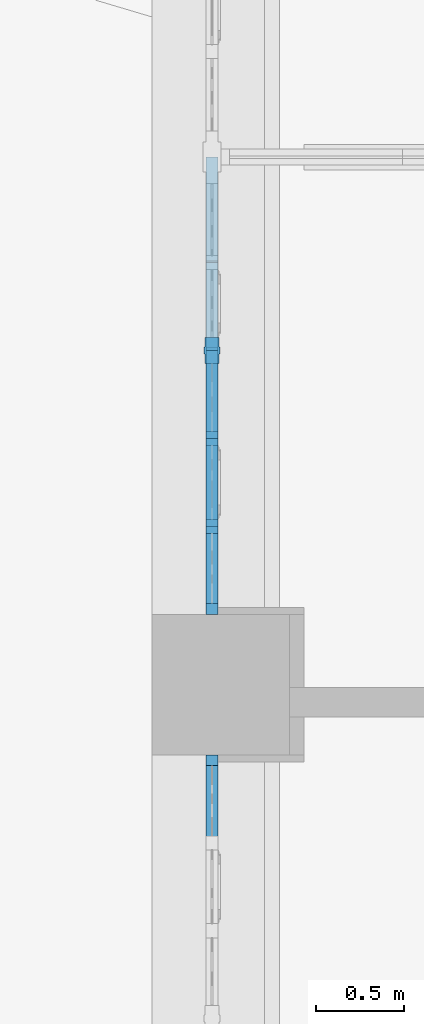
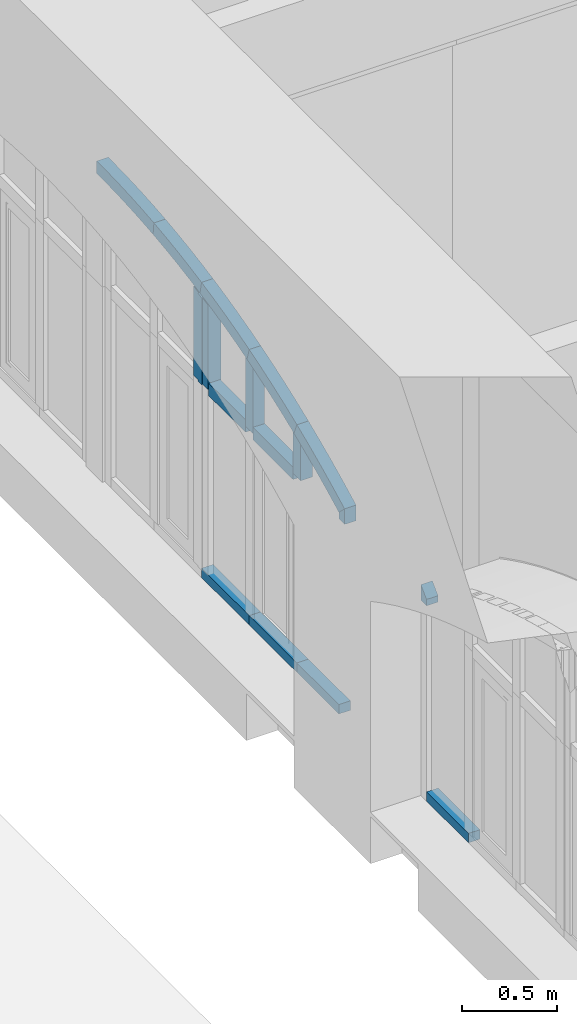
# One storey, part 43 of 88: 16 members, 2 elements without a shape of their own.
"""IFC2X3 building model written with IfcOpenShell, lengths in millimetres."""

from ifc_helpers import new_model, entity, si_unit, converted_unit, derived_unit, direction, frame, frame_2d, origin, place, context, subcontext, project, spatial, polyline, circle_curve, parameter, trimmed, segment, composite_curve, rectangle, outline, extrude, faceted_brep, source, transform, mapped, material, type_object, type_shapes, element, aggregate, save


model = new_model("IFC2X3")

# Units and contexts
model_context = context("Model", 3, precision=0.01, world=origin(), true_north=direction((6.123031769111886e-17, 1.0)))
body_context = subcontext(model_context, "Body", "Model", "MODEL_VIEW")
ifc_project = project(units=[si_unit("LENGTHUNIT", "METRE", prefix="MILLI"), si_unit("AREAUNIT", "SQUARE_METRE"), si_unit("VOLUMEUNIT", "CUBIC_METRE"), converted_unit("PLANEANGLEUNIT", "DEGREE", entity("IfcPlaneAngleMeasure", 0.017453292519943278), si_unit("PLANEANGLEUNIT", "RADIAN"), dimensions=[0, 0, 0, 0, 0, 0, 0]), si_unit("MASSUNIT", "GRAM", prefix="KILO"), derived_unit("MASSDENSITYUNIT", [(si_unit("MASSUNIT", "GRAM", prefix="KILO"), 1), (si_unit("LENGTHUNIT", "METRE"), -3)]), derived_unit("IONCONCENTRATIONUNIT", [(si_unit("MASSUNIT", "GRAM", prefix="KILO"), 1), (si_unit("LENGTHUNIT", "METRE"), -3)]), derived_unit("MOMENTOFINERTIAUNIT", [(si_unit("LENGTHUNIT", "METRE"), 4)]), si_unit("TIMEUNIT", "SECOND"), si_unit("FREQUENCYUNIT", "HERTZ"), si_unit("THERMODYNAMICTEMPERATUREUNIT", "DEGREE_CELSIUS"), derived_unit("THERMALTRANSMITTANCEUNIT", [(si_unit("MASSUNIT", "GRAM", prefix="KILO"), 1), (si_unit("THERMODYNAMICTEMPERATUREUNIT", "KELVIN"), -1), (si_unit("TIMEUNIT", "SECOND"), -3)]), derived_unit("THERMALCONDUCTANCEUNIT", [(si_unit("MASSUNIT", "GRAM", prefix="KILO"), 1), (si_unit("THERMODYNAMICTEMPERATUREUNIT", "KELVIN"), -1), (si_unit("TIMEUNIT", "SECOND"), -3), (si_unit("LENGTHUNIT", "METRE"), 1)]), derived_unit("VOLUMETRICFLOWRATEUNIT", [(si_unit("LENGTHUNIT", "METRE", prefix="DECI"), 3), (si_unit("TIMEUNIT", "SECOND"), -1)]), derived_unit("MASSFLOWRATEUNIT", [(si_unit("MASSUNIT", "GRAM", prefix="KILO"), 1), (si_unit("TIMEUNIT", "SECOND"), -1)]), derived_unit("ROTATIONALFREQUENCYUNIT", [(si_unit("TIMEUNIT", "SECOND"), -1)]), si_unit("ELECTRICCURRENTUNIT", "AMPERE"), si_unit("ELECTRICVOLTAGEUNIT", "VOLT"), si_unit("POWERUNIT", "WATT"), si_unit("FORCEUNIT", "NEWTON", prefix="KILO"), si_unit("ILLUMINANCEUNIT", "LUX"), si_unit("LUMINOUSFLUXUNIT", "LUMEN"), si_unit("LUMINOUSINTENSITYUNIT", "CANDELA"), si_unit("ENERGYUNIT", "JOULE"), derived_unit("USERDEFINED", [(si_unit("MASSUNIT", "GRAM", prefix="KILO"), -1), (si_unit("LENGTHUNIT", "METRE"), -2), (si_unit("TIMEUNIT", "SECOND"), 3), (si_unit("LUMINOUSFLUXUNIT", "LUMEN"), 1)]), derived_unit("USERDEFINED", [(si_unit("MASSUNIT", "GRAM", prefix="KILO"), 1), (si_unit("TIMEUNIT", "SECOND"), -3), (si_unit("LENGTHUNIT", "METRE"), 3), (si_unit("ELECTRICCURRENTUNIT", "AMPERE"), -2)]), derived_unit("SOUNDPOWERUNIT", [(si_unit("MASSUNIT", "GRAM", prefix="KILO"), 1), (si_unit("TIMEUNIT", "SECOND"), -3), (si_unit("LENGTHUNIT", "METRE"), 2)]), derived_unit("SOUNDPRESSUREUNIT", [(si_unit("MASSUNIT", "GRAM", prefix="KILO"), 1), (si_unit("LENGTHUNIT", "METRE"), -1), (si_unit("TIMEUNIT", "SECOND"), -2)]), derived_unit("LINEARVELOCITYUNIT", [(si_unit("LENGTHUNIT", "METRE"), 1), (si_unit("TIMEUNIT", "SECOND"), -1)]), si_unit("PRESSUREUNIT", "PASCAL"), derived_unit("USERDEFINED", [(si_unit("MASSUNIT", "GRAM", prefix="KILO"), 1), (si_unit("LENGTHUNIT", "METRE"), -2), (si_unit("TIMEUNIT", "SECOND"), -2)]), derived_unit("LINEARFORCEUNIT", [(si_unit("MASSUNIT", "GRAM", prefix="KILO"), 1), (si_unit("TIMEUNIT", "SECOND"), -2)]), derived_unit("PLANARFORCEUNIT", [(si_unit("MASSUNIT", "GRAM", prefix="KILO"), 1), (si_unit("LENGTHUNIT", "METRE"), -1), (si_unit("TIMEUNIT", "SECOND"), -2)]), derived_unit("SPECIFICHEATCAPACITYUNIT", [(si_unit("THERMODYNAMICTEMPERATUREUNIT", "KELVIN"), -1), (si_unit("LENGTHUNIT", "METRE"), 2), (si_unit("TIMEUNIT", "SECOND"), -2)]), derived_unit("HEATFLUXDENSITYUNIT", [(si_unit("MASSUNIT", "GRAM", prefix="KILO"), 1), (si_unit("TIMEUNIT", "SECOND"), -3)]), derived_unit("HEATINGVALUEUNIT", [(si_unit("LENGTHUNIT", "METRE"), 2), (si_unit("TIMEUNIT", "SECOND"), -2)]), derived_unit("VAPORPERMEABILITYUNIT", [(si_unit("LENGTHUNIT", "METRE"), -1), (si_unit("TIMEUNIT", "SECOND"), 1)]), derived_unit("DYNAMICVISCOSITYUNIT", [(si_unit("MASSUNIT", "GRAM", prefix="KILO"), 1), (si_unit("TIMEUNIT", "SECOND"), -1), (si_unit("LENGTHUNIT", "METRE"), -1)]), derived_unit("THERMALEXPANSIONCOEFFICIENTUNIT", [(si_unit("THERMODYNAMICTEMPERATUREUNIT", "KELVIN"), -1)]), derived_unit("MODULUSOFELASTICITYUNIT", [(si_unit("MASSUNIT", "GRAM", prefix="KILO"), 1), (si_unit("LENGTHUNIT", "METRE"), -1), (si_unit("TIMEUNIT", "SECOND"), -2)]), derived_unit("ISOTHERMALMOISTURECAPACITYUNIT", [(si_unit("MASSUNIT", "GRAM", prefix="KILO"), -1), (si_unit("LENGTHUNIT", "METRE"), 3)]), derived_unit("MOISTUREDIFFUSIVITYUNIT", [(si_unit("TIMEUNIT", "SECOND"), -1), (si_unit("LENGTHUNIT", "METRE"), 2)]), derived_unit("MASSPERLENGTHUNIT", [(si_unit("MASSUNIT", "GRAM", prefix="KILO"), 1), (si_unit("LENGTHUNIT", "METRE"), -1)]), derived_unit("THERMALRESISTANCEUNIT", [(si_unit("MASSUNIT", "GRAM", prefix="KILO"), -1), (si_unit("TIMEUNIT", "SECOND"), 3), (si_unit("THERMODYNAMICTEMPERATUREUNIT", "KELVIN"), 1)]), derived_unit("ACCELERATIONUNIT", [(si_unit("LENGTHUNIT", "METRE"), 1), (si_unit("TIMEUNIT", "SECOND"), -2)]), derived_unit("ANGULARVELOCITYUNIT", [(si_unit("TIMEUNIT", "SECOND"), -1), (si_unit("PLANEANGLEUNIT", "RADIAN"), 1)]), derived_unit("LINEARSTIFFNESSUNIT", [(si_unit("MASSUNIT", "GRAM", prefix="KILO"), 1), (si_unit("TIMEUNIT", "SECOND"), -2)]), derived_unit("WARPINGCONSTANTUNIT", [(si_unit("LENGTHUNIT", "METRE"), 6)]), derived_unit("LINEARMOMENTUNIT", [(si_unit("MASSUNIT", "GRAM", prefix="KILO"), 1), (si_unit("LENGTHUNIT", "METRE"), 1), (si_unit("TIMEUNIT", "SECOND"), -2)]), derived_unit("TORQUEUNIT", [(si_unit("MASSUNIT", "GRAM", prefix="KILO"), 1), (si_unit("LENGTHUNIT", "METRE"), 2), (si_unit("TIMEUNIT", "SECOND"), -2)])], contexts=[model_context])

# Site, building, storey
site_placement = place(None, origin())
site = spatial("IfcSite", under=ifc_project, at=site_placement, Name="Default", CompositionType="ELEMENT")
building_placement = place(site_placement, origin())
building = spatial("IfcBuilding", under=site, at=building_placement, Name="Eesti Rahvusraamatukogu hoone renoveerimise projekteerimistööd", CompositionType="ELEMENT")
storey_placement = place(building_placement, origin())
storey = spatial("IfcBuildingStorey", under=building, at=storey_placement, Name="1. korrus", CompositionType="ELEMENT", Elevation=0.0)

# Curtain wall, members
curtain_wall_type = type_object("IfcCurtainWallType", Name="Curtain Wall:Ak-02", PredefinedType="NOTDEFINED")
curtain_wall_1_placement = place(storey_placement, origin())
curtain_wall_1 = element("IfcCurtainWall", 1, at=curtain_wall_1_placement, inside=storey, type_object=curtain_wall_type, Name="Curtain Wall:Ak-02", ObjectType="Curtain Wall:Ak-02")
ifc_material = material(Name="LUMION_dark steel window frames")
member_type_1 = type_object("IfcMemberType", Name="Rectangular Mullion:NEW 80x70mm", PredefinedType="MULLION", material=ifc_material)
shared_shape_1 = source(origin(), body_context, "Body", "SweptSolid", [
    extrude(outline(composite_curve([segment(polyline([(-56.23219214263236, -297.82636877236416), (23.767807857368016, -297.82636877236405)]), True, "CONTINUOUS"), segment(trimmed(circle_curve(frame_2d((5464.483487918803, -297.82636877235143), x_axis=(-0.9940766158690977, 0.10868156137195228)), 5440.715680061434), [parameter(3.053332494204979e-13)], [parameter(6.2393189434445)], True, "PARAMETER"), False, "CONTINUOUS"), segment(polyline([(55.99525677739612, 293.47910631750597), (-23.53087249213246, 302.1736312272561)]), True, "CONTINUOUS"), segment(trimmed(circle_curve(frame_2d((5464.483487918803, -297.82636877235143), x_axis=(-0.9940766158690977, 0.10868156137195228)), 5520.715680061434), [parameter(3.5622212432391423e-13)], [parameter(6.2393189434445)], True, "PARAMETER"), True, "CONTINUOUS")], self_intersect=False)), frame((-56.23219214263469, -35.0, -297.82636877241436), z_axis=(0.0, 1.0, 0.0), x_axis=(-0.9940766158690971, 0.0, 0.10868156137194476)), (0.0, 0.0, 1.0), 69.99999999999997),
])
type_shapes(member_type_1, [shared_shape_1])
member_1_placement = place(curtain_wall_1_placement, frame((-36440.0, 44790.0, 3947.8704590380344), z_axis=(0.0, -0.9940766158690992, -0.10868156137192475), x_axis=(0.0, -0.10868156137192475, 0.9940766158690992)))
member_1 = element("IfcMember", 2, at=member_1_placement, type_object=member_type_1, material=ifc_material, Name="Rectangular Mullion:NEW 80x70mm", ObjectType="Rectangular Mullion:NEW 80x70mm", context=body_context, shape_type="MappedRepresentation", body=[
    mapped(shared_shape_1, transform((0.0, 0.0, 0.0), scale=1.0)),
])
member_type_2 = type_object("IfcMemberType", Name="Rectangular Mullion:NEW 80x70mm", PredefinedType="MULLION", material=ifc_material)
shared_shape_2 = source(origin(), body_context, "Body", "SweptSolid", [
    extrude(outline(composite_curve([segment(polyline([(-51.51245202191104, -250.9261639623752), (28.487547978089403, -250.92616396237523)]), True, "CONTINUOUS"), segment(trimmed(circle_curve(frame_2d((5469.203228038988, -250.9261639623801), x_axis=(-0.9957989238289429, 0.09156693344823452)), 5440.715680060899), [parameter(3.5622212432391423e-13)], [parameter(5.253758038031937)], True, "PARAMETER"), False, "CONTINUOUS"), segment(polyline([(51.34440897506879, 247.26348662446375), (-28.319504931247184, 254.5888413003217)]), True, "CONTINUOUS"), segment(trimmed(circle_curve(frame_2d((5469.203228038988, -250.9261639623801), x_axis=(-0.9957989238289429, 0.09156693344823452)), 5520.715680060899), [parameter(3.5622212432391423e-13)], [parameter(5.253758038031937)], True, "PARAMETER"), True, "CONTINUOUS")], self_intersect=False)), frame((-51.512452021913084, -35.0, -250.926163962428), z_axis=(0.0, 1.0, 0.0), x_axis=(-0.9957989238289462, 0.0, 0.09156693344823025)), (0.0, 0.0, 1.0), 70.00000000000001),
])
type_shapes(member_type_2, [shared_shape_2])
member_2_placement = place(curtain_wall_1_placement, frame((-36440.0, 44290.0, 3869.874732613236), z_axis=(0.0, -0.9799487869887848, -0.19924952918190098), x_axis=(0.0, -0.19924952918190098, 0.9799487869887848)))
member_2 = element("IfcMember", 3, at=member_2_placement, type_object=member_type_2, material=ifc_material, Name="Rectangular Mullion:NEW 80x70mm", ObjectType="Rectangular Mullion:NEW 80x70mm", context=body_context, shape_type="MappedRepresentation", body=[
    mapped(shared_shape_2, transform((0.0, 0.0, 0.0), scale=1.0)),
])
member_type_3 = type_object("IfcMemberType", Name="Rectangular Mullion:NEW 80x70mm", PredefinedType="MULLION", material=ifc_material)
shared_shape_3 = source(origin(), body_context, "Body", "SweptSolid", [
    extrude(outline(composite_curve([segment(polyline([(-51.95542765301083, -255.69780513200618), (28.044572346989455, -255.69780513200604)]), True, "CONTINUOUS"), segment(trimmed(circle_curve(frame_2d((5468.760252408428, -255.6978051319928), x_axis=(-0.9956372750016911, 0.09330818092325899)), 5440.715680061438), [parameter(3.5622212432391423e-13)], [parameter(5.353953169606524)], True, "PARAMETER"), False, "CONTINUOUS"), segment(polyline([(51.78091865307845, 251.96547789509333), (-27.870063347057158, 259.4301323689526)]), True, "CONTINUOUS"), segment(trimmed(circle_curve(frame_2d((5468.760252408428, -255.6978051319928), x_axis=(-0.9956372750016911, 0.09330818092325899)), 5520.715680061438), [parameter(3.5622212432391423e-13)], [parameter(5.353953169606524)], True, "PARAMETER"), True, "CONTINUOUS")], self_intersect=False)), frame((-51.9554276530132, -35.0, -255.6978051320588), z_axis=(0.0, 1.0, 0.0), x_axis=(-0.9956372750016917, 0.0, 0.09330818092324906)), (0.0, 0.0, 1.0), 70.00000000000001),
])
type_shapes(member_type_3, [shared_shape_3])
member_3_placement = place(curtain_wall_1_placement, frame((-36440.0, 43790.0, 3743.6333100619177), z_axis=(0.0, -0.9570819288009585, -0.2898174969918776), x_axis=(0.0, -0.2898174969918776, 0.9570819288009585)))
member_3 = element("IfcMember", 4, at=member_3_placement, type_object=member_type_3, material=ifc_material, Name="Rectangular Mullion:NEW 80x70mm", ObjectType="Rectangular Mullion:NEW 80x70mm", context=body_context, shape_type="MappedRepresentation", body=[
    mapped(shared_shape_3, transform((0.0, 0.0, 0.0), scale=1.0)),
])
member_type_4 = type_object("IfcMemberType", Name="Rectangular Mullion:NEW 80x70mm", PredefinedType="MULLION", material=ifc_material)
shared_shape_4 = source(origin(), body_context, "Body", "SweptSolid", [
    extrude(outline(composite_curve([segment(polyline([(-52.66438607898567, -263.1530214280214), (27.33561392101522, -263.1530214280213)]), True, "CONTINUOUS"), segment(trimmed(circle_curve(frame_2d((5468.05129398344, -263.15302142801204), x_axis=(-0.9953785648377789, 0.09602870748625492)), 5440.715680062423), [parameter(3.5622212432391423e-13)], [parameter(5.510531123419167)], True, "PARAMETER"), False, "CONTINUOUS"), segment(polyline([(52.47952867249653, 259.31187312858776), (-27.150756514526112, 266.99416972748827)]), True, "CONTINUOUS"), segment(trimmed(circle_curve(frame_2d((5468.05129398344, -263.15302142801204), x_axis=(-0.9953785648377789, 0.09602870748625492)), 5520.715680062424), [parameter(3.5622212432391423e-13)], [parameter(5.510531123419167)], True, "PARAMETER"), True, "CONTINUOUS")], self_intersect=False)), frame((-52.66438607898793, -35.0, -263.1530214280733), z_axis=(0.0, 1.0, 0.0), x_axis=(-0.9953785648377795, 0.0, 0.09602870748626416)), (0.0, 0.0, 1.0), 70.0),
])
type_shapes(member_type_4, [shared_shape_4])
member_4_placement = place(curtain_wall_1_placement, frame((-36440.0, 43290.0, 3565.568744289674), z_axis=(0.0, -0.9248280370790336, -0.38038546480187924), x_axis=(0.0, -0.38038546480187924, 0.9248280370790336)))
member_4 = element("IfcMember", 5, at=member_4_placement, type_object=member_type_4, material=ifc_material, Name="Rectangular Mullion:NEW 80x70mm", ObjectType="Rectangular Mullion:NEW 80x70mm", context=body_context, shape_type="MappedRepresentation", body=[
    mapped(shared_shape_4, transform((0.0, 0.0, 0.0), scale=1.0)),
])
member_type_5 = type_object("IfcMemberType", Name="Rectangular Mullion:NEW 80x70mm", PredefinedType="MULLION", material=ifc_material)
shared_shape_5 = source(origin(), body_context, "Body", "SweptSolid", [
    extrude(outline(composite_curve([segment(polyline([(-53.11529804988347, -267.70979815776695), (26.884701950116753, -267.709798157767)]), True, "CONTINUOUS"), segment(trimmed(circle_curve(frame_2d((5467.600382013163, -267.70979815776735), x_axis=(-0.9949883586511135, 0.0999908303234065)), 5440.7156800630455), [parameter(0.26669094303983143)], [parameter(5.738642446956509)], True, "PARAMETER"), False, "CONTINUOUS"), segment(polyline([(51.67804717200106, 251.10844964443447), (-25.447451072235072, 284.3111466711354)]), True, "CONTINUOUS"), segment(trimmed(circle_curve(frame_2d((5467.600382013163, -267.70979815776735), x_axis=(-0.9949883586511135, 0.0999908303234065)), 5520.7156800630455), [parameter(3.5622212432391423e-13)], [parameter(5.738642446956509)], True, "PARAMETER"), True, "CONTINUOUS")], self_intersect=False)), frame((-53.748425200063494, -35.0, -280.34176941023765), z_axis=(0.0, 1.0, 0.0), x_axis=(-0.9949883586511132, 0.0, 0.0999908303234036)), (0.0, 0.0, 1.0), 69.99999999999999),
])
type_shapes(member_type_5, [shared_shape_5])
member_5_placement = place(curtain_wall_1_placement, frame((-36440.0, 42790.0, 3330.0), z_axis=(0.0, -0.8821580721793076, -0.47095343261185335), x_axis=(0.0, -0.47095343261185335, 0.8821580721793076)))
member_5 = element("IfcMember", 6, at=member_5_placement, type_object=member_type_5, material=ifc_material, Name="Rectangular Mullion:NEW 80x70mm", ObjectType="Rectangular Mullion:NEW 80x70mm", context=body_context, shape_type="MappedRepresentation", body=[
    mapped(shared_shape_5, transform((0.0, 0.0, 0.0), scale=1.0)),
])
member_type_6 = type_object("IfcMemberType", Name="Rectangular Mullion:NEW 150x90mm", PredefinedType="MULLION", material=ifc_material)
shared_shape_6 = source(origin(), body_context, "Body", "Brep", [
    faceted_brep([(-20.0, -40.0, 0.0), (-20.0, -45.0, 0.0), (20.0, -45.0, 0.0), (20.0, -40.0, 0.0), (75.0, -40.0, 0.0), (75.0, 40.0, 0.0), (20.0, 40.0, 0.0), (20.0, 45.0, 0.0), (-20.0, 45.0, 0.0), (-20.0, 40.0, 0.0), (-75.0, 40.0, 0.0), (-75.0, -40.0, 0.0), (-20.0, 40.0, -562.3027332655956), (-47.48603249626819, 40.0, -567.7959127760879), (-75.0, 40.0, -573.1474168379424), (75.0, 40.0, -542.1778237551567), (47.51534075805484, 40.0, -548.1824945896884), (20.0, 40.0, -554.044967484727), (-75.0, -40.0, -573.1474168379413), (-47.48603249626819, -40.0, -567.7959127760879), (-20.0, -40.0, -562.3027332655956), (20.0, -40.0, -554.0449674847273), (47.51534075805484, -40.0, -548.1824945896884), (75.0, -40.0, -542.1778237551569), (-20.0, -45.0, -562.3027332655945), (-20.0, 45.0, -562.3027332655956), (-17.969902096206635, -45.0, -561.891167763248), (-15.939962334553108, -45.0, -561.4788296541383), (2.036281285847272, -45.0, -557.7922042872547), (20.0, -45.0, -554.044967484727), (20.0, 45.0, -554.0449674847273), (2.0362812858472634, 45.0, -557.7922042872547), (-15.939962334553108, 45.0, -561.4788296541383), (-17.969902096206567, 45.0, -561.8911677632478), (-15.939962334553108, -33.75000000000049, -561.4788296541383), (-15.939962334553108, -22.50000000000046, -561.4788296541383), (-15.939962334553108, 33.7499999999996, -561.4788296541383), (-15.939962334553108, 22.49999999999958, -561.4788296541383), (-15.939962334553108, 0.0, -561.4788296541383)], [[[0, 1, 2, 3, 4, 5, 6, 7, 8, 9, 10, 11]], [[10, 9, 12, 13, 14]], [[6, 5, 15, 16, 17]], [[11, 10, 14, 18]], [[0, 11, 18, 19, 20]], [[4, 3, 21, 22, 23]], [[1, 0, 20, 24]], [[9, 8, 25, 12]], [[1, 24, 26, 27, 28, 29, 2]], [[3, 2, 29, 21]], [[7, 6, 17, 30]], [[5, 4, 23, 15]], [[7, 30, 31, 32, 33, 25, 8]], [[26, 20, 27]], [[34, 27, 20, 35]], [[12, 32, 36, 37]], [[12, 33, 32]], [[12, 25, 33]], [[20, 26, 24]], [[38, 35, 19, 13, 37]], [[19, 35, 20]], [[13, 19, 18, 14]], [[12, 37, 13]], [[15, 23, 22, 16]], [[16, 22, 21, 17]], [[21, 29, 28, 31, 30, 17]], [[31, 28, 27, 34, 35, 38, 37, 36, 32]]]),
])
type_shapes(member_type_6, [shared_shape_6])
member_6_placement = place(curtain_wall_1_placement, frame((-36440.0, 44290.0, 3230.0), z_axis=(0.0, 0.0, -1.0), x_axis=(0.0, -1.0, 0.0)))
member_6 = element("IfcMember", 7, at=member_6_placement, type_object=member_type_6, material=ifc_material, Name="Rectangular Mullion:NEW 150x90mm", ObjectType="Rectangular Mullion:NEW 150x90mm", context=body_context, shape_type="MappedRepresentation", body=[
    mapped(shared_shape_6, transform((0.0, 0.0, 0.0), scale=1.0)),
])
member_type_7 = type_object("IfcMemberType", Name="Rectangular Mullion:NEW 80x70mm", PredefinedType="MULLION", material=ifc_material)
shared_shape_7 = source(origin(), body_context, "Body", "SweptSolid", [
    extrude(outline(composite_curve([segment(polyline([(-259.341776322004, -44.637079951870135), (158.1715113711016, -44.637079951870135)]), True, "CONTINUOUS"), segment(trimmed(circle_curve(frame_2d((-5029.485677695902, 1595.362920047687), x_axis=(0.9248280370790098, -0.3803854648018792)), 5440.715680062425), [parameter(4.8139927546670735)], [parameter(5.510531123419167)], True, "PARAMETER"), True, "CONTINUOUS"), segment(trimmed(circle_curve(frame_2d((-5029.48567769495, 1595.3629200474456), x_axis=(0.9570819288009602, -0.28981749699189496)), 5440.715680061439), [parameter(0.0)], [parameter(0.18492371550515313)], True, "PARAMETER"), True, "CONTINUOUS"), segment(polyline([(182.78706183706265, 35.36292004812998), (-259.341776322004, 35.362920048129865)]), True, "CONTINUOUS"), segment(polyline([(-259.341776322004, 35.362920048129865), (-259.341776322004, -44.637079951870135)]), True, "CONTINUOUS")], self_intersect=False)), frame((-4.637079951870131, -35.0, -259.341776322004), z_axis=(0.0, 1.0, 0.0), x_axis=(0.0, 0.0, -1.0)), (0.0, 0.0, 1.0), 69.99999999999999),
])
type_shapes(member_type_7, [shared_shape_7])
member_7_placement = place(curtain_wall_1_placement, frame((-36440.0, 43790.0, 3230.0), z_axis=(0.0, 0.0, -1.0), x_axis=(0.0, -1.0, 0.0)))
member_7 = element("IfcMember", 8, at=member_7_placement, type_object=member_type_7, material=ifc_material, Name="Rectangular Mullion:NEW 80x70mm", ObjectType="Rectangular Mullion:NEW 80x70mm", context=body_context, shape_type="MappedRepresentation", body=[
    mapped(shared_shape_7, transform((0.0, 0.0, 0.0), scale=1.0)),
])
member_type_8 = type_object("IfcMemberType", Name="Rectangular Mullion:NEW 80x70mm", PredefinedType="MULLION", material=ifc_material)
shared_shape_8 = source(origin(), body_context, "Body", "SweptSolid", [
    extrude(outline(composite_curve([segment(polyline([(-151.8249085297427, -46.086167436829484), (80.20942675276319, -46.086167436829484)]), True, "CONTINUOUS"), segment(trimmed(circle_curve(frame_2d((-4921.968809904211, 2093.913832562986), x_axis=(0.8821580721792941, -0.47095343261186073)), 5440.7156800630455), [parameter(4.934304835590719)], [parameter(5.738642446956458)], True, "PARAMETER"), True, "CONTINUOUS"), segment(trimmed(circle_curve(frame_2d((-4921.968809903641, 2093.9138325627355), x_axis=(0.9248280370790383, -0.3803854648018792)), 5440.715680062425), [parameter(0.0)], [parameter(0.1089206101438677)], True, "PARAMETER"), True, "CONTINUOUS"), segment(polyline([(113.68279751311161, 33.91383256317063), (-151.8249085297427, 33.913832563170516)]), True, "CONTINUOUS"), segment(polyline([(-151.8249085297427, 33.913832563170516), (-151.8249085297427, -46.086167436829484)]), True, "CONTINUOUS")], self_intersect=False)), frame((-6.086167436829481, -35.0, -151.8249085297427), z_axis=(0.0, 1.0, 0.0), x_axis=(0.0, 0.0, -1.0)), (0.0, 0.0, 1.0), 70.00000000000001),
])
type_shapes(member_type_8, [shared_shape_8])
member_8_placement = place(curtain_wall_1_placement, frame((-36440.0, 43290.0, 3230.0), z_axis=(0.0, 0.0, -1.0), x_axis=(0.0, -1.0, 0.0)))
member_8 = element("IfcMember", 9, at=member_8_placement, type_object=member_type_8, material=ifc_material, Name="Rectangular Mullion:NEW 80x70mm", ObjectType="Rectangular Mullion:NEW 80x70mm", context=body_context, shape_type="MappedRepresentation", body=[
    mapped(shared_shape_8, transform((0.0, 0.0, 0.0), scale=1.0)),
])
member_type_9 = type_object("IfcMemberType", Name="Rectangular Mullion:NEW 80x70mm", PredefinedType="MULLION", material=ifc_material)
shared_shape_9 = source(origin(), body_context, "Body", "SweptSolid", [
    extrude(rectangle(XDim=80.0, YDim=70.0, at=frame_2d((0.0, -3.552713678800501e-15), x_axis=(1.0, 0.0))), frame((0.0, 0.0, -420.0), z_axis=(0.0, 0.0, 1.0), x_axis=(-1.0, 0.0, 0.0)), (0.0, 0.0, 1.0), 419.999999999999),
])
type_shapes(member_type_9, [shared_shape_9])
member_9_placement = place(curtain_wall_1_placement, frame((-36440.0, 43330.0, 3230.0), z_axis=(0.0, -1.0, 0.0), x_axis=(0.0, 0.0, 1.0)))
member_9 = element("IfcMember", 10, at=member_9_placement, type_object=member_type_9, material=ifc_material, Name="Rectangular Mullion:NEW 80x70mm", ObjectType="Rectangular Mullion:NEW 80x70mm", context=body_context, shape_type="MappedRepresentation", body=[
    mapped(shared_shape_9, transform((0.0, 0.0, 0.0), scale=1.0)),
])
member_type_10 = type_object("IfcMemberType", Name="Rectangular Mullion:NEW 80x70mm", PredefinedType="MULLION", material=ifc_material)
shared_shape_10 = source(origin(), body_context, "Body", "SweptSolid", [
    extrude(rectangle(XDim=80.0, YDim=70.0, at=frame_2d((0.0, -3.552713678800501e-15), x_axis=(1.0, 0.0))), frame((0.0, 0.0, -385.0), z_axis=(0.0, 0.0, 1.0), x_axis=(-1.0, 0.0, 0.0)), (0.0, 0.0, 1.0), 384.99999999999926),
])
type_shapes(member_type_10, [shared_shape_10])
member_10_placement = place(curtain_wall_1_placement, frame((-36440.0, 43830.0, 3230.0), z_axis=(0.0, -1.0, 0.0), x_axis=(0.0, 0.0, 1.0)))
member_10 = element("IfcMember", 11, at=member_10_placement, type_object=member_type_10, material=ifc_material, Name="Rectangular Mullion:NEW 80x70mm", ObjectType="Rectangular Mullion:NEW 80x70mm", context=body_context, shape_type="MappedRepresentation", body=[
    mapped(shared_shape_10, transform((0.0, 0.0, 0.0), scale=1.0)),
])
member_type_11 = type_object("IfcMemberType", Name="Rectangular Mullion:NEW 60x70mm", PredefinedType="MULLION", material=ifc_material)
shared_shape_11 = source(origin(), body_context, "Body", "SweptSolid", [
    extrude(rectangle(XDim=60.0, YDim=70.0, at=frame_2d((0.0, 3.552713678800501e-15), x_axis=(1.0, 0.0))), frame((-30.0, 0.0, -500.0), z_axis=(0.0, 0.0, 1.0), x_axis=(-1.0, 0.0, 0.0)), (0.0, 0.0, 1.0), 499.999999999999),
])
type_shapes(member_type_11, [shared_shape_11])
member_11_placement = place(curtain_wall_1_placement, frame((-36440.0, 44290.0, 1980.0), z_axis=(0.0, 1.0, 0.0), x_axis=(0.0, 0.0, -1.0)))
member_11 = element("IfcMember", 12, at=member_11_placement, type_object=member_type_11, material=ifc_material, Name="Rectangular Mullion:NEW 60x70mm", ObjectType="Rectangular Mullion:NEW 60x70mm", context=body_context, shape_type="MappedRepresentation", body=[
    mapped(shared_shape_11, transform((0.0, 0.0, 0.0), scale=1.0)),
])
member_12_placement = place(curtain_wall_1_placement, frame((-36440.0, 43790.0, 1980.0), z_axis=(0.0, 1.0, 0.0), x_axis=(0.0, 0.0, -1.0)))
member_12 = element("IfcMember", 13, at=member_12_placement, type_object=member_type_11, material=ifc_material, Name="Rectangular Mullion:NEW 60x70mm", ObjectType="Rectangular Mullion:NEW 60x70mm", context=body_context, shape_type="MappedRepresentation", body=[
    mapped(shared_shape_11, transform((0.0, 0.0, 0.0), scale=1.0)),
])
member_type_12 = type_object("IfcMemberType", Name="Rectangular Mullion:NEW 60x70mm", PredefinedType="MULLION", material=ifc_material)
shared_shape_12 = source(origin(), body_context, "Body", "SweptSolid", [
    extrude(rectangle(XDim=60.0, YDim=70.0, at=frame_2d((0.0, 3.552713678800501e-15), x_axis=(1.0, 0.0))), frame((-30.0, 0.0, -440.0), z_axis=(0.0, 0.0, 1.0), x_axis=(-1.0, 0.0, 0.0)), (0.0, 0.0, 1.0), 439.9999999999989),
])
type_shapes(member_type_12, [shared_shape_12])
member_13_placement = place(curtain_wall_1_placement, frame((-36440.0, 43290.0, 1980.0), z_axis=(0.0, 1.0, 0.0), x_axis=(0.0, 0.0, -1.0)))
member_13 = element("IfcMember", 14, at=member_13_placement, type_object=member_type_12, material=ifc_material, Name="Rectangular Mullion:NEW 60x70mm", ObjectType="Rectangular Mullion:NEW 60x70mm", context=body_context, shape_type="MappedRepresentation", body=[
    mapped(shared_shape_12, transform((0.0, 0.0, 0.0), scale=1.0)),
])

# Curtain wall, member
curtain_wall_2_placement = place(storey_placement, origin())
curtain_wall_2 = element("IfcCurtainWall", 15, at=curtain_wall_2_placement, inside=storey, type_object=curtain_wall_type, Name="Curtain Wall:Ak-02", ObjectType="Curtain Wall:Ak-02")
member_type_13 = type_object("IfcMemberType", Name="Rectangular Mullion:NEW 60x70mm", PredefinedType="MULLION", material=ifc_material)
shared_shape_13 = source(origin(), body_context, "Body", "SweptSolid", [
    extrude(rectangle(XDim=60.0, YDim=70.0, at=frame_2d((0.0, 3.552713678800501e-15), x_axis=(1.0, 0.0))), frame((-30.0, 0.0, -440.0), z_axis=(0.0, 0.0, 1.0), x_axis=(-1.0, 0.0, 0.0)), (0.0, 0.0, 1.0), 439.9999999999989),
])
type_shapes(member_type_13, [shared_shape_13])
member_14_placement = place(curtain_wall_2_placement, frame((-36440.0, 41930.0, 1980.0), z_axis=(0.0, 1.0, 0.0), x_axis=(0.0, 0.0, -1.0)))
member_14 = element("IfcMember", 16, at=member_14_placement, type_object=member_type_13, material=ifc_material, Name="Rectangular Mullion:NEW 60x70mm", ObjectType="Rectangular Mullion:NEW 60x70mm", context=body_context, shape_type="MappedRepresentation", body=[
    mapped(shared_shape_13, transform((0.0, 0.0, 0.0), scale=1.0)),
])

# Member
member_type_14 = type_object("IfcMemberType", Name="Rectangular Mullion:NEW 60x70mm", PredefinedType="MULLION", material=ifc_material)
shared_shape_14 = source(origin(), body_context, "Body", "SweptSolid", [
    extrude(outline(polyline([(-35.33630318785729, -30.0), (64.6636968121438, -30.0), (6.008909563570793, 30.0), (-35.33630318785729, 30.0), (-35.33630318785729, -30.0)])), frame((-30.0, -35.0, -35.33630318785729), z_axis=(0.0, 1.0, 0.0), x_axis=(0.0, 0.0, -1.0)), (0.0, 0.0, 1.0), 69.99999999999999),
])
type_shapes(member_type_14, [shared_shape_14])
member_15_placement = place(curtain_wall_1_placement, frame((-36440.0, 42790.0, 3230.0), z_axis=(0.0, 0.0, -1.0), x_axis=(0.0, -1.0, 0.0)))
member_15 = element("IfcMember", 17, at=member_15_placement, type_object=member_type_14, material=ifc_material, Name="Rectangular Mullion:NEW 60x70mm", ObjectType="Rectangular Mullion:NEW 60x70mm", context=body_context, shape_type="MappedRepresentation", body=[
    mapped(shared_shape_14, transform((0.0, 0.0, 0.0), scale=1.0)),
])

aggregate(curtain_wall_1, [member_1, member_2, member_3, member_4, member_5, member_6, member_7, member_8, member_10, member_9, member_11, member_12, member_13, member_15])

member_type_15 = type_object("IfcMemberType", Name="Rectangular Mullion:NEW 60x70mm", PredefinedType="MULLION", material=ifc_material)
shared_shape_15 = source(origin(), body_context, "Body", "SweptSolid", [
    extrude(outline(polyline([(-64.66369681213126, -30.0), (35.336303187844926, -30.0), (35.336303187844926, 30.0), (-6.008909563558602, 30.0), (-64.66369681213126, -30.0)])), frame((-30.0, -35.0, -64.66369681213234), z_axis=(0.0, 1.0, 0.0), x_axis=(0.0, 0.0, -1.0)), (0.0, 0.0, 1.0), 69.99999999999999),
])
type_shapes(member_type_15, [shared_shape_15])
member_16_placement = place(curtain_wall_2_placement, frame((-36440.0, 41990.0, 3330.0), z_axis=(0.0, 0.0, 1.0), x_axis=(0.0, 1.0, 0.0)))
member_16 = element("IfcMember", 18, at=member_16_placement, type_object=member_type_15, material=ifc_material, Name="Rectangular Mullion:NEW 60x70mm", ObjectType="Rectangular Mullion:NEW 60x70mm", context=body_context, shape_type="MappedRepresentation", body=[
    mapped(shared_shape_15, transform((0.0, 0.0, 0.0), scale=1.0)),
])

aggregate(curtain_wall_2, [member_14, member_16])

save(model, "model.ifc")
